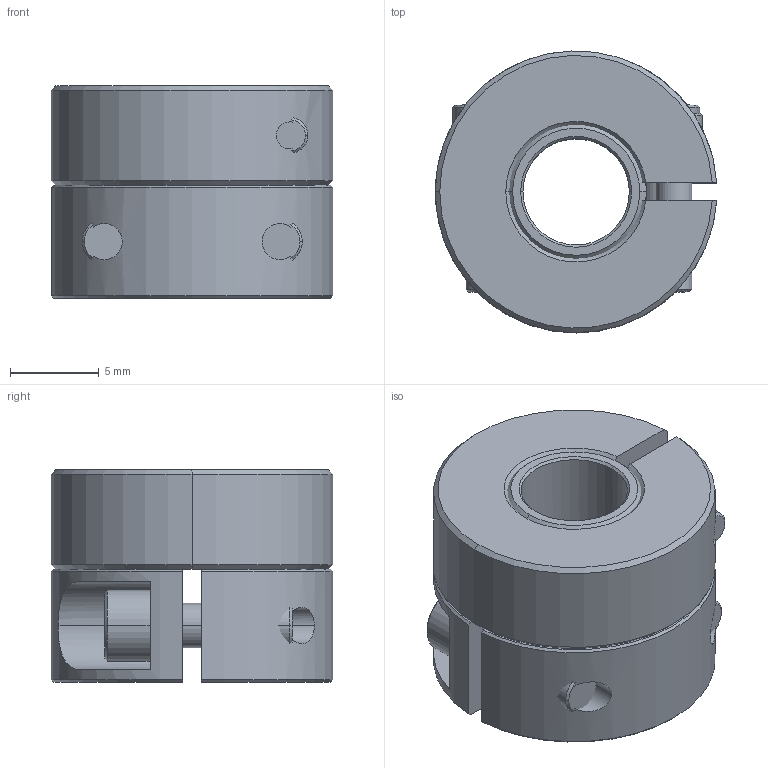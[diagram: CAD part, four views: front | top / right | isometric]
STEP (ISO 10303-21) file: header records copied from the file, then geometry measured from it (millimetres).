
FILE_DESCRIPTION( ( 'STEP File Generated from Kubotek KeyCreator' ), '1' );
FILE_NAME( 'Part1', '2006-06-03T22:46:28', ( 'KeyCreator USER' ), ( 'Kubotek USA, Inc.' ), 'ACIS Interop R13 SP5', 'Kubotek KeyCreator V4.5.0 (0337)', 'KC' );
FILE_SCHEMA( ( 'CONFIG_CONTROL_DESIGN' ) );
Length unit declared in the file: inch
Products named in the file (5): 1; 2; 3; 4; 5
Bounding box: 15.86 x 15.88 x 11.96 mm (x, y, z)
Volume: 1873.3 mm3; surface area: 2364.1 mm2
Topology: 5 solids, 5 shells, 124 faces, 300 edges, 194 vertices
Faces by surface type: plane 54, cylinder 40, cone 30
Entity records: 4018 total; most frequent: CARTESIAN_POINT 807, DIRECTION 652, ORIENTED_EDGE 600, EDGE_CURVE 300, AXIS2_PLACEMENT_3D 243, VERTEX_POINT 194, LINE 166, VECTOR 166
